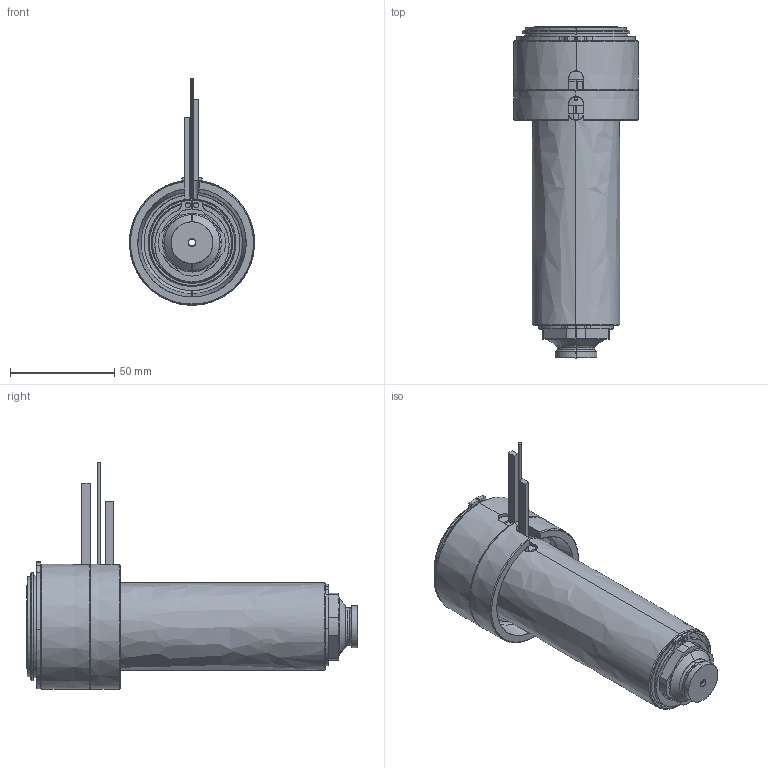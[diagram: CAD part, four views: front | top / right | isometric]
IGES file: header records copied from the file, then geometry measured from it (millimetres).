
Start section: SolidWorks IGES file using analytic representation for surfaces
Global section: file name: C:\Documents and Settings\ws-20\Desktop\TEM\UGER6605-M-A-1 [Øb-3.3 P-0 ØC-17].IGS; native system: SolidWorks 2012; preprocessor: SolidWorks 2012; author: ws-20; date: 120417.135314; units: millimetre
Bounding box: 60 x 159.25 x 108.65 mm (x, y, z)
Surface area: 92678.5 mm2 (no closed solid volume)
Topology: 0 solids, 0 shells, 167 faces, 3262 edges, 3262 vertices
Faces by surface type: revolution 100, bspline 67
